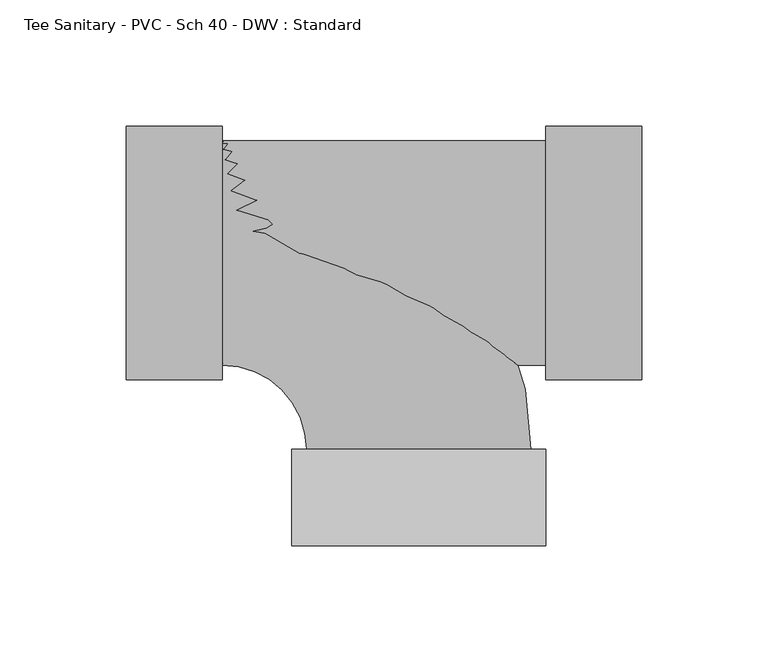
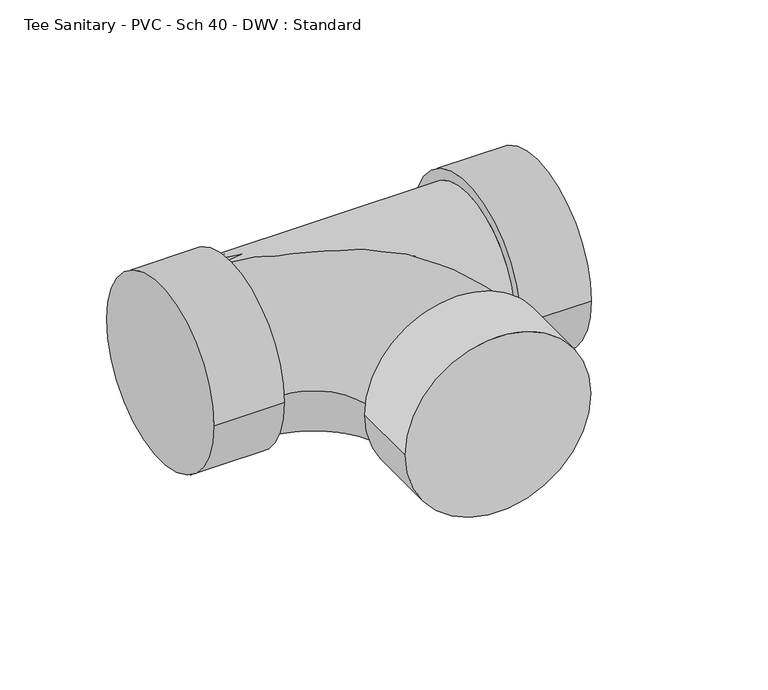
"""IFC4 building model written with IfcOpenShell, lengths in millimetres: pipe fitting geometry, Tee Sanitary - PVC - Sch 40 - DWV : Standard."""

from ifc_helpers import new_model, si_unit, point, frame, origin, place, context, project, spatial, circle_curve, ellipse_curve, trimmed, source, transform, mapped, element, save
from ifc_brep_helpers import plane_surface, cylinder_surface, revolved_surface, advanced_brep


def tee_sanitary_pvc_sch_40_dwv_standard_2808dae9(model_context):
    return source(origin(), model_context, "Body", "AdvancedBrep", [
        advanced_brep(
        [(-77.8002, -44.45, 0.0), (-77.8002, 44.45, 0.0), (-44.4474943, -77.8016316, 0.0), (44.4525057, -77.7987684, 0.0), (50.2703328, -115.898581, 0.0), (-50.2628672, -115.9018189, 0.0), (50.2691057, -77.798581, 0.0), (-50.2640943, -77.8018189, 0.0)],
        [
            (0, 1, circle_curve(frame((-77.8002, 0.0, 0.0), z_axis=(-1.0, 0.0, 0.0), x_axis=(0.0, 1.0, 0.0)), 44.45)),
            (1, 0, circle_curve(frame((-77.8002, 0.0, 0.0), z_axis=(-1.0, 0.0, 0.0), x_axis=(0.0, 1.0, 0.0)), 44.45)),
            (0, 2, circle_curve(frame((-77.8002, -77.8027057, 0.0), z_axis=(0.0, 0.0, -1.0), x_axis=(0.0, 1.0, 0.0)), 33.3527057)),
            (2, 3, circle_curve(frame((0.0025057, -77.8002, 0.0), z_axis=(-3.2206954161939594e-05, 0.9999999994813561, 0.0), x_axis=(0.9999999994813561, 3.2206954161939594e-05, 0.0)), 44.45)),
            (3, 1, circle_curve(frame((-77.8002, -77.8027057, 0.0), z_axis=(0.0, 0.0, 1.0), x_axis=(0.0, 1.0, 0.0)), 122.2527057)),
            (3, 2, circle_curve(frame((0.0025057, -77.8002, 0.0), z_axis=(-3.2206953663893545e-05, 0.9999999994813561, 0.0), x_axis=(0.9999999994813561, 3.2206953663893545e-05, 0.0)), 44.45)),
            (4, 5, circle_curve(frame((0.0037328, -115.9001999, 0.0), z_axis=(3.220695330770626e-05, -0.9999999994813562, 0.0), x_axis=(-0.9999999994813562, -3.220695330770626e-05, 0.0)), 50.2666)),
            (5, 4, circle_curve(frame((0.0037328, -115.9001999, 0.0), z_axis=(3.220695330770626e-05, -0.9999999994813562, 0.0), x_axis=(-0.9999999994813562, -3.220695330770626e-05, 0.0)), 50.2666)),
            (6, 7, circle_curve(frame((0.0025057, -77.8002, 0.0), z_axis=(-3.220695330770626e-05, 0.9999999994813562, 0.0), x_axis=(-0.9999999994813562, -3.220695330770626e-05, 0.0)), 50.2666)),
            (7, 6, circle_curve(frame((0.0025057, -77.8002, 0.0), z_axis=(-3.220695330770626e-05, 0.9999999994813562, 0.0), x_axis=(-0.9999999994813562, -3.220695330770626e-05, 0.0)), 50.2666)),
            (4, 6),
            (7, 5),
        ],
        [
            plane_surface(frame((-77.8002, 0.0, 0.0), z_axis=(-1.0, 0.0, 0.0), x_axis=(0.0, 0.0, 1.0))),
            revolved_surface(trimmed(ellipse_curve(frame((-77.8002, 0.0, 0.0), z_axis=(-1.0, 0.0, 0.0), x_axis=(0.0, 1.0, 0.0)), 44.45, 44.45), [point((-77.8002, -44.45, 0.0))], [point((-77.8002, 44.45, 0.0))], True, "CARTESIAN"), (-77.8002, -77.8027057, 0.0), (0.0, 0.0, -1.0)),
            revolved_surface(trimmed(ellipse_curve(frame((-77.8002, 0.0, 0.0), z_axis=(-1.0, 0.0, 0.0), x_axis=(0.0, 1.0, 0.0)), 44.45, 44.45), [point((-77.8002, 44.45, 0.0))], [point((-77.8002, -44.45, 0.0))], True, "CARTESIAN"), (-77.8002, -77.8027057, 0.0), (0.0, 0.0, -1.0)),
            plane_surface(frame((0.0037328, -115.9001999, 0.0), z_axis=(3.220695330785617e-05, -0.9999999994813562, 0.0), x_axis=(0.0, 0.0, 1.0))),
            plane_surface(frame((0.0025057, -77.8002, 0.0), z_axis=(-3.220695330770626e-05, 0.9999999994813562, 0.0), x_axis=(0.0, 0.0, 1.0))),
            cylinder_surface(frame((0.0037328, -115.9001999, 0.0), z_axis=(3.220695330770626e-05, -0.9999999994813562, 0.0), x_axis=(-0.9999999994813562, -3.220695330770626e-05, 0.0)), 50.2666),
        ],
        [
            (0, [[1, 2]]),
            (1, [[-1, 3, 4, 5]]),
            (2, [[-2, -5, 6, -3]]),
            (3, [[7, 8]]),
            (4, [[9, 10], [-4, -6]]),
            (5, [[-7, 11, -10, 12]]),
            (5, [[-8, -12, -9, -11]]),
        ],
    ),
        advanced_brep(
        [(-77.8002, -44.45, 0.0), (50.2691057, -44.45, 0.0), (50.2691057, 44.45, 0.0), (-77.8002, 44.45, 0.0), (50.2691057, -50.2666, 0.0), (50.2691057, 50.2666, 0.0), (88.3691057, -50.2666, 0.0), (88.3691057, 50.2666, 0.0), (-115.9002, -50.2666, 0.0), (-115.9002, 50.2666, 0.0), (-77.8002, -50.2666, 0.0), (-77.8002, 50.2666, 0.0)],
        [
            (0, 1),
            (1, 2, circle_curve(frame((50.2691057, 0.0, 0.0), z_axis=(-1.0, 0.0, 0.0), x_axis=(0.0, 1.0, 0.0)), 44.45)),
            (2, 3),
            (3, 0, circle_curve(frame((-77.8002, 0.0, 0.0), z_axis=(1.0, 0.0, 0.0), x_axis=(0.0, 1.0, 0.0)), 44.45)),
            (0, 3, circle_curve(frame((-77.8002, 0.0, 0.0), z_axis=(1.0, 0.0, 0.0), x_axis=(0.0, 1.0, 0.0)), 44.45)),
            (2, 1, circle_curve(frame((50.2691057, 0.0, 0.0), z_axis=(-1.0, 0.0, 0.0), x_axis=(0.0, 1.0, 0.0)), 44.45)),
            (4, 5, circle_curve(frame((50.2691057, 0.0, 0.0), z_axis=(-1.0, 0.0, 0.0), x_axis=(0.0, 1.0, 0.0)), 50.2666)),
            (5, 4, circle_curve(frame((50.2691057, 0.0, 0.0), z_axis=(-1.0, 0.0, 0.0), x_axis=(0.0, 1.0, 0.0)), 50.2666)),
            (6, 7, circle_curve(frame((88.3691057, 0.0, 0.0), z_axis=(1.0, 0.0, 0.0), x_axis=(0.0, 1.0, 0.0)), 50.2666)),
            (7, 6, circle_curve(frame((88.3691057, 0.0, 0.0), z_axis=(1.0, 0.0, 0.0), x_axis=(0.0, 1.0, 0.0)), 50.2666)),
            (4, 6),
            (7, 5),
            (8, 9, circle_curve(frame((-115.9002, 0.0, 0.0), z_axis=(-1.0, 0.0, 0.0), x_axis=(0.0, 1.0, 0.0)), 50.2666)),
            (9, 8, circle_curve(frame((-115.9002, 0.0, 0.0), z_axis=(-1.0, 0.0, 0.0), x_axis=(0.0, 1.0, 0.0)), 50.2666)),
            (10, 11, circle_curve(frame((-77.8002, 0.0, 0.0), z_axis=(1.0, 0.0, 0.0), x_axis=(0.0, 1.0, 0.0)), 50.2666)),
            (11, 10, circle_curve(frame((-77.8002, 0.0, 0.0), z_axis=(1.0, 0.0, 0.0), x_axis=(0.0, 1.0, 0.0)), 50.2666)),
            (8, 10),
            (11, 9),
        ],
        [
            cylinder_surface(frame((-77.8002, 0.0, 0.0), z_axis=(-1.0, 0.0, 0.0), x_axis=(0.0, 1.0, 0.0)), 44.45),
            plane_surface(frame((50.2691057, 0.0, 0.0), z_axis=(-1.0, 0.0, 0.0), x_axis=(0.0, 0.0, 1.0))),
            plane_surface(frame((88.3691057, 0.0, 0.0), z_axis=(1.0, 0.0, 0.0), x_axis=(0.0, 0.0, 1.0))),
            cylinder_surface(frame((50.2691057, 0.0, 0.0), z_axis=(-1.0, 0.0, 0.0), x_axis=(0.0, 1.0, 0.0)), 50.2666),
            plane_surface(frame((-115.9002, 0.0, 0.0), z_axis=(-1.0, 0.0, 0.0), x_axis=(0.0, 0.0, 1.0))),
            plane_surface(frame((-77.8002, 0.0, 0.0), z_axis=(1.0, 0.0, 0.0), x_axis=(0.0, 0.0, 1.0))),
            cylinder_surface(frame((-115.9002, 0.0, 0.0), z_axis=(-1.0, 0.0, 0.0), x_axis=(0.0, 1.0, 0.0)), 50.2666),
        ],
        [
            (0, [[1, 2, 3, 4]]),
            (0, [[-1, 5, -3, 6]]),
            (1, [[7, 8], [-2, -6]]),
            (2, [[9, 10]]),
            (3, [[-7, 11, -10, 12]]),
            (3, [[-8, -12, -9, -11]]),
            (4, [[13, 14]]),
            (5, [[15, 16], [-4, -5]]),
            (6, [[-13, 17, -16, 18]]),
            (6, [[-14, -18, -15, -17]]),
        ],
    ),
    ])


if __name__ == "__main__":
    model = new_model("IFC4")
    model_context = context("Model", 3, world=origin())
    ifc_project = project(units=[si_unit("LENGTHUNIT", "METRE", prefix="MILLI")], contexts=[model_context])
    site = spatial("IfcSite", under=ifc_project)
    building = spatial("IfcBuilding", under=site)
    placement = place(None, origin())
    tee_sanitary_pvc_sch_40_dwv_standard_shape = tee_sanitary_pvc_sch_40_dwv_standard_2808dae9(model_context)
    element("IfcPipeFitting", 1, ObjectType="Tee Sanitary - PVC - Sch 40 - DWV : Standard", at=placement, inside=building, context=model_context, shape_type="MappedRepresentation", body=[
        mapped(tee_sanitary_pvc_sch_40_dwv_standard_shape, transform((0.0, 0.0, 0.0), x_axis=(1.0, 0.0, 0.0), y_axis=(0.0, 1.0, 0.0), z_axis=(0.0, 0.0, 1.0))),
    ])
    save(model, "model.ifc")
